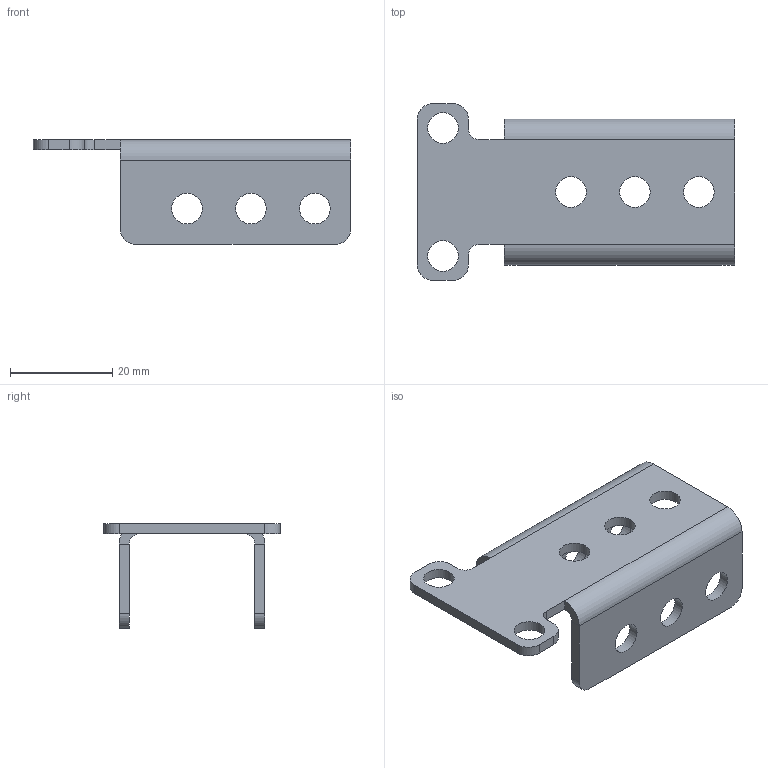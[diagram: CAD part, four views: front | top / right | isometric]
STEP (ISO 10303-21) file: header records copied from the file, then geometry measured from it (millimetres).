
FILE_DESCRIPTION(('STEP AP203'), '1');
FILE_NAME('2506 Êðîíøòåéí ìîíòàæíîãî ïðîôèëÿ 23õ23', '', ('UNSPECIFIED'), ('UNSPECIFIED'), 'C3D Converter', 'C3D Toolkit', '');
FILE_SCHEMA(('CONFIG_CONTROL_DESIGN'));
Length unit declared in the file: millimetre
Products named in the file (1): 2506.1
Bounding box: 62 x 34.5 x 20.5 mm (x, y, z)
Volume: 5990.7 mm3; surface area: 6937.1 mm2
Topology: 1 solids, 1 shells, 49 faces, 125 edges, 78 vertices
Faces by surface type: cylinder 25, plane 24
Full cylindrical faces by diameter (mm): 6 x11
Entity records: 1510 total; most frequent: DIRECTION 264, CARTESIAN_POINT 242, ORIENTED_EDGE 228, EDGE_CURVE 114, AXIS2_PLACEMENT_3D 100, EDGE_LOOP 82, VERTEX_POINT 78, LINE 64
